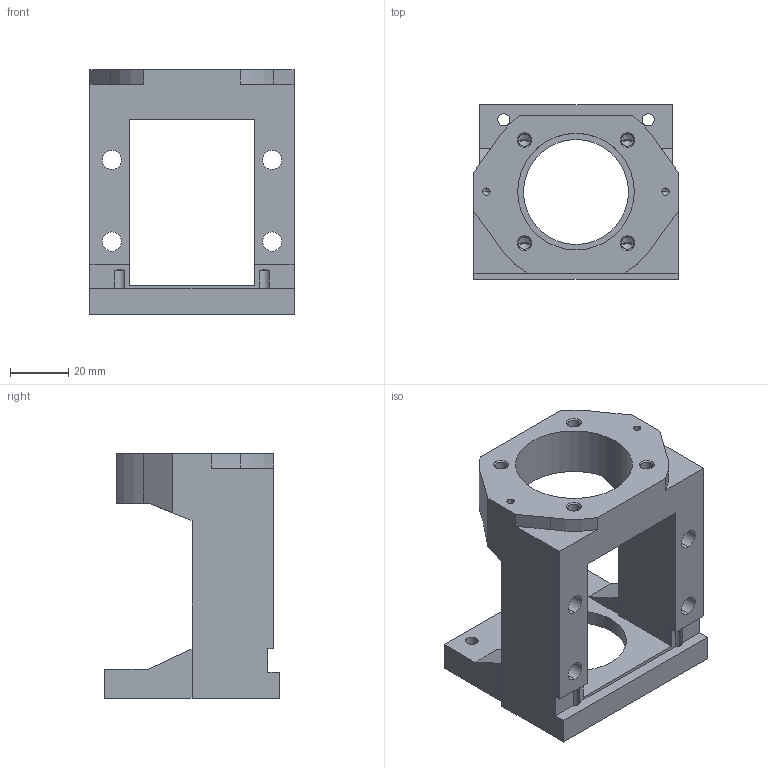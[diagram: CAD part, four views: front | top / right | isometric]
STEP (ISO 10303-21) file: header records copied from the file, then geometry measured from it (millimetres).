
FILE_DESCRIPTION (( 'STEP AP203' ), '1' );
FILE_NAME ('自化件傳動座外MBA15D本體.STEP', '2018-12-27T08:32:38', ( '' ), ( '' ), 'SwSTEP 2.0', 'SolidWorks 2018', '' );
FILE_SCHEMA (( 'CONFIG_CONTROL_DESIGN' ));
Length unit declared in the file: millimetre
Products named in the file (1): 自化件傳動座外MBA15D本體
Bounding box: 70 x 60 x 84 mm (x, y, z)
Volume: 101226.2 mm3; surface area: 32182.4 mm2
Topology: 1 solids, 1 shells, 119 faces, 322 edges, 196 vertices
Faces by surface type: cylinder 46, plane 41, cone 32
Entity records: 3759 total; most frequent: DIRECTION 656, CARTESIAN_POINT 644, ORIENTED_EDGE 612, EDGE_CURVE 306, AXIS2_PLACEMENT_3D 232, VERTEX_POINT 196, LINE 192, VECTOR 192
